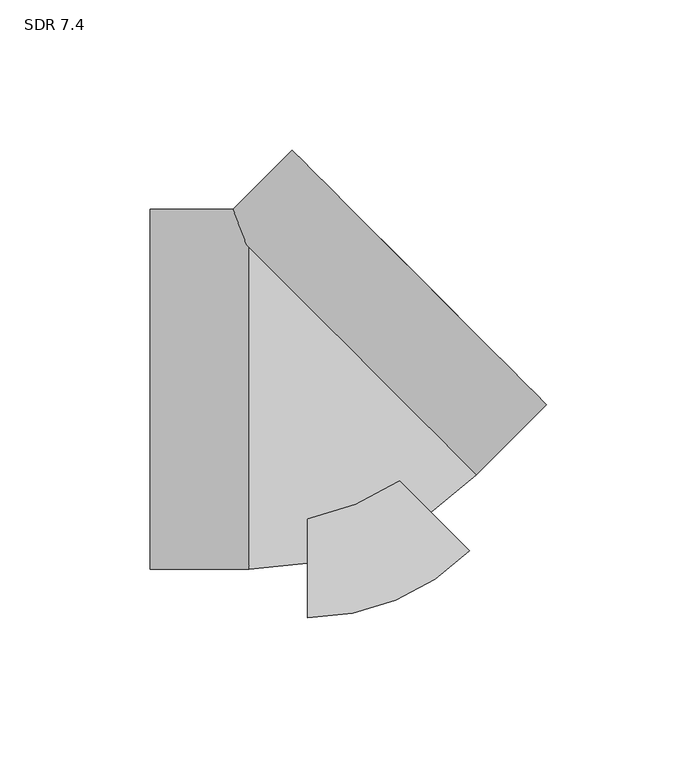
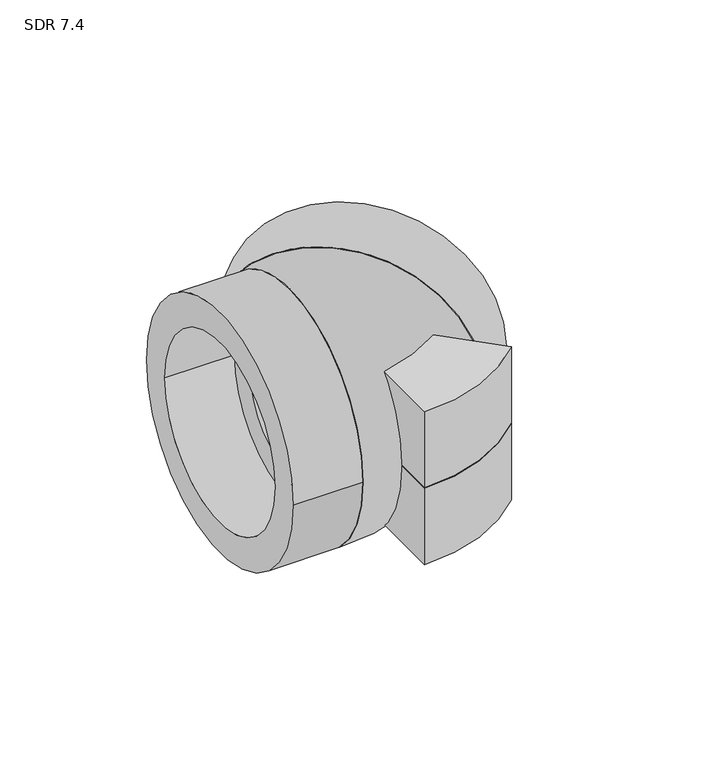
"""IFC4 building model written with IfcOpenShell, lengths in millimetres: pipe fitting geometry, Aquatherm - Elbow Socket : SDR 7.4."""

import ifcopenshell
import ifcopenshell.guid

model = None  # the IFC model being written
_history = None  # IfcOwnerHistory: only IFC2X3 demands one
_inside = {}  # id of a spatial element -> (the spatial element, [elements in it])
_under = {}  # id of a project, library or spatial element -> (it, [spatial elements below it])
_declared = {}  # id of a project -> (the project, [libraries it declares])
_typed = {}  # id of a type object -> (the type object, [elements of that type])
_made_of = {}  # id of a material, layer set ... -> (it, [elements and type objects made of it])


def new_model(schema):
    """Start an empty IFC model of exactly this schema.

    Asked for "IFC4X3", IfcOpenShell would pick the latest addendum, in which some entities
    have other attributes; the version numbers below select the first issue.
    IFC2X3 requires an IfcOwnerHistory on every rooted entity: one is made here for all.
    """
    global model, _history
    if schema == "IFC4X3":
        model = ifcopenshell.file(schema_version=(4, 3, 0, 0))
    else:
        model = ifcopenshell.file(schema=schema)
    _inside.clear()
    _under.clear()
    _declared.clear()
    _typed.clear()
    _made_of.clear()
    _history = None
    if model.schema == "IFC2X3":
        org = make("IfcOrganization", Name="unknown")
        user = make(
            "IfcPersonAndOrganization",
            ThePerson=make("IfcPerson", FamilyName="unknown"),
            TheOrganization=org,
        )
        app = make(
            "IfcApplication",
            ApplicationDeveloper=org,
            Version="unknown",
            ApplicationFullName="unknown",
            ApplicationIdentifier="unknown",
        )
        _history = make(
            "IfcOwnerHistory",
            OwningUser=user,
            OwningApplication=app,
            ChangeAction="ADDED",
            CreationDate=0,
        )
    return model


def make(cls, **values):
    """One entity of the class cls with the attributes given. An attribute that is None is left unset."""
    return model.create_entity(
        cls, **{name: value for name, value in values.items() if value is not None}
    )


def rooted(cls, **values):
    """An entity with a GlobalId (a new one), such as an element, a storey or a relation."""
    return make(cls, GlobalId=ifcopenshell.guid.new(), OwnerHistory=_history, **values)


def si_unit(unit_type, name, prefix=None):
    """IfcSIUnit, for example si_unit("LENGTHUNIT", "METRE", prefix="MILLI")."""
    return make("IfcSIUnit", UnitType=unit_type, Prefix=prefix, Name=name)


def assignment(units):
    """IfcUnitAssignment: the units of a project."""
    return None if units is None else make("IfcUnitAssignment", Units=units)


def point(xyz):
    """IfcCartesianPoint."""
    return None if xyz is None else make("IfcCartesianPoint", Coordinates=xyz)


def direction(xyz):
    """IfcDirection."""
    return None if xyz is None else make("IfcDirection", DirectionRatios=xyz)


def frame(location, z_axis=None, x_axis=None):
    """IfcAxis2Placement3D, a coordinate frame: its origin and axes. An axis left out is left unset."""
    return make(
        "IfcAxis2Placement3D",
        Location=point(location),
        Axis=direction(z_axis),
        RefDirection=direction(x_axis),
    )


def frame_2d(location, x_axis=None):
    """IfcAxis2Placement2D, a coordinate frame in the plane: its origin and x axis."""
    return make(
        "IfcAxis2Placement2D", Location=point(location), RefDirection=direction(x_axis)
    )


def origin():
    """The frame at (0, 0, 0) with its axes left unset."""
    return frame((0.0, 0.0, 0.0))


def origin_with_axes():
    """The frame at (0, 0, 0) with the z axis (0, 0, 1) and the x axis (1, 0, 0) written out."""
    return frame((0.0, 0.0, 0.0), z_axis=(0.0, 0.0, 1.0), x_axis=(1.0, 0.0, 0.0))


def origin_2d():
    """The frame at (0, 0) in the plane with its x axis left unset."""
    return frame_2d((0.0, 0.0))


def place(relative_to, where):
    """IfcLocalPlacement: puts the frame where relative to a parent placement (None: the world)."""
    return make(
        "IfcLocalPlacement", PlacementRelTo=relative_to, RelativePlacement=where
    )


def context(
    kind, dimensions, precision=None, world=None, true_north=None, identifier=None
):
    """IfcGeometricRepresentationContext, for example the 3D "Model" context."""
    return make(
        "IfcGeometricRepresentationContext",
        ContextIdentifier=identifier,
        ContextType=kind,
        CoordinateSpaceDimension=dimensions,
        Precision=precision,
        WorldCoordinateSystem=world,
        TrueNorth=true_north,
    )


def project(units=None, contexts=None):
    """IfcProject with its units and contexts."""
    return rooted(
        "IfcProject",
        Name="project",
        RepresentationContexts=contexts,
        UnitsInContext=assignment(units),
    )


def spatial(cls, under=None, at=None, **own):
    """A site, building, storey or space (cls), placed at a placement, below another one or the project."""
    s = rooted(cls, ObjectPlacement=at, **own)
    if under is not None:
        _under.setdefault(under.id(), (under, []))[1].append(s)
    return s


def polyline(points):
    """IfcPolyline through the points."""
    return make("IfcPolyline", Points=[point(p) for p in points])


def circle_curve(where, radius):
    """IfcCircle in the frame where."""
    return make("IfcCircle", Position=where, Radius=radius)


def ellipse_curve(where, semi_axis1, semi_axis2):
    """IfcEllipse in the frame where."""
    return make(
        "IfcEllipse", Position=where, SemiAxis1=semi_axis1, SemiAxis2=semi_axis2
    )


def trimmed(basis, trim1, trim2, sense, master):
    """IfcTrimmedCurve: the piece of a basis curve between two trims."""
    return make(
        "IfcTrimmedCurve",
        BasisCurve=basis,
        Trim1=trim1,
        Trim2=trim2,
        SenseAgreement=sense,
        MasterRepresentation=master,
    )


def segment(curve, same_sense, transition):
    """IfcCompositeCurveSegment."""
    return make(
        "IfcCompositeCurveSegment",
        Transition=transition,
        SameSense=same_sense,
        ParentCurve=curve,
    )


def composite_curve(segments, self_intersect=None):
    """IfcCompositeCurve: segments joined end to end."""
    return make("IfcCompositeCurve", Segments=segments, SelfIntersect=self_intersect)


def outline(outer, holes=None, kind="AREA"):
    """IfcArbitraryClosedProfileDef: a profile drawn as a closed curve; with holes, ...WithVoids."""
    if holes is None:
        return make("IfcArbitraryClosedProfileDef", ProfileType=kind, OuterCurve=outer)
    return make(
        "IfcArbitraryProfileDefWithVoids",
        ProfileType=kind,
        OuterCurve=outer,
        InnerCurves=holes,
    )


def extrude(swept, where, along, depth):
    """IfcExtrudedAreaSolid: the profile swept, set in the frame where, extruded along a direction by depth."""
    return make(
        "IfcExtrudedAreaSolid",
        SweptArea=swept,
        Position=where,
        ExtrudedDirection=direction(along),
        Depth=depth,
    )


def shape(context_of_items, identifier, shape_type, items):
    """IfcShapeRepresentation: the items that make up one representation, for example the "Body"."""
    return make(
        "IfcShapeRepresentation",
        ContextOfItems=context_of_items,
        RepresentationIdentifier=identifier,
        RepresentationType=shape_type,
        Items=items,
    )


def source(mapping_origin, context_of_items, identifier, shape_type, items):
    """IfcRepresentationMap: a shape defined once, which mapped items show again and again."""
    return make(
        "IfcRepresentationMap",
        MappingOrigin=mapping_origin,
        MappedRepresentation=shape(context_of_items, identifier, shape_type, items),
    )


def transform(
    local_origin,
    x_axis=None,
    y_axis=None,
    z_axis=None,
    scale=None,
    scale2=None,
    scale3=None,
    uniform=True,
):
    """IfcCartesianTransformationOperator3D, or its non-uniform kind. x_axis, y_axis, z_axis: its Axis1, 2, 3."""
    if uniform:
        return make(
            "IfcCartesianTransformationOperator3D",
            Axis1=direction(x_axis),
            Axis2=direction(y_axis),
            LocalOrigin=point(local_origin),
            Scale=scale,
            Axis3=direction(z_axis),
        )
    return make(
        "IfcCartesianTransformationOperator3DnonUniform",
        Axis1=direction(x_axis),
        Axis2=direction(y_axis),
        LocalOrigin=point(local_origin),
        Scale=scale,
        Axis3=direction(z_axis),
        Scale2=scale2,
        Scale3=scale3,
    )


def mapped(mapping_source, mapping_target):
    """IfcMappedItem: shows the shape of a source again, moved by a transform."""
    return make(
        "IfcMappedItem", MappingSource=mapping_source, MappingTarget=mapping_target
    )


def made_of(thing, what):
    """Note that an element or type object is made of a material, layer set ...; save() writes the relation."""
    if what is not None:
        _made_of.setdefault(what.id(), (what, []))[1].append(thing)
    return thing


def element(
    cls,
    number,
    at=None,
    inside=None,
    cuts=None,
    type_object=None,
    material=None,
    context=None,
    identifier="Body",
    shape_type=None,
    held_by="IfcProductDefinitionShape",
    body=None,
    shapes=None,
    **own,
):
    """One element of the class cls, such as IfcWall. Its Tag is "e" and its number.

    at: its placement. inside: the storey or other place that contains it. cuts: it is an
    opening in that element (IfcRelVoidsElement). A single representation is given by context,
    identifier, shape_type and body (its items); several are given by shapes. held_by: the class
    of the entity that holds the representations. save() writes the other relations.
    """
    e = rooted(cls, Tag="e%d" % number, ObjectPlacement=at, **own)
    if body is not None:
        shapes = [shape(context, identifier, shape_type, body)]
    if shapes is not None:
        e.Representation = make(held_by, Representations=shapes)
    if inside is not None:
        _inside.setdefault(inside.id(), (inside, []))[1].append(e)
    if cuts is not None:
        rooted(
            "IfcRelVoidsElement", RelatingBuildingElement=cuts, RelatedOpeningElement=e
        )
    if type_object is not None:
        _typed.setdefault(type_object.id(), (type_object, []))[1].append(e)
    return made_of(e, material)


def aggregate(whole, parts):
    """IfcRelAggregates: a whole, such as a stair, and the parts it consists of."""
    return rooted("IfcRelAggregates", RelatingObject=whole, RelatedObjects=parts)


def save(model, path):
    """Write the relations noted so far, then the file.

    IfcRelAggregates (storeys below a building ...), IfcRelContainedInSpatialStructure (elements
    in a storey), IfcRelDefinesByType, IfcRelAssociatesMaterial and IfcRelDeclares: one each for
    every whole, place, type object, material and project.
    """
    for whole, parts in _under.values():
        aggregate(whole, parts)
    for where, things in _inside.values():
        rooted(
            "IfcRelContainedInSpatialStructure",
            RelatedElements=things,
            RelatingStructure=where,
        )
    for kind, things in _typed.values():
        rooted("IfcRelDefinesByType", RelatedObjects=things, RelatingType=kind)
    for what, things in _made_of.values():
        rooted("IfcRelAssociatesMaterial", RelatedObjects=things, RelatingMaterial=what)
    for by, libraries in _declared.values():
        rooted("IfcRelDeclares", RelatingContext=by, RelatedDefinitions=libraries)
    model.write(path)


def plane_surface(at):
    """IfcPlane: the flat surface through the origin of the frame at, square to its z axis."""
    return make("IfcPlane", Position=at)


def revolved_surface(curve, axis_point, axis_direction):
    """IfcSurfaceOfRevolution: the curve turned about the line through axis_point along axis_direction."""
    return make(
        "IfcSurfaceOfRevolution",
        SweptCurve=make("IfcArbitraryOpenProfileDef", ProfileType="CURVE", Curve=curve),
        AxisPosition=make("IfcAxis1Placement", Location=point(axis_point), Axis=direction(axis_direction)),
    )


def advanced_brep(points, edges, surfaces, faces):
    """IfcAdvancedBrep: a solid bounded by faces that lie on surfaces and meet in shared edges.

    An edge is (start, end): straight between two places in points (the first is 0);
    or (start, end, curve); or (start, end, curve, False) where it runs against its curve.
    A face is (place in surfaces, loops), or (place, loops, False) where it looks against
    its surface's normal. A loop lists edges by number (the first is 1), with a minus sign
    where the edge is run from its end to its start. The first loop is the outer one.
    """
    corners = [point(p) for p in points]
    vertices = [make("IfcVertexPoint", VertexGeometry=c) for c in corners]
    made = []
    for start, end, *more in edges:
        made.append(
            make(
                "IfcEdgeCurve",
                EdgeStart=vertices[start],
                EdgeEnd=vertices[end],
                EdgeGeometry=more[0] if more else make("IfcPolyline", Points=[corners[start], corners[end]]),
                SameSense=more[1] if len(more) > 1 else True,
            )
        )
    hull = []
    for where, loops, *sense in faces:
        bounds = []
        for j, loop in enumerate(loops):
            ring = [make("IfcOrientedEdge", EdgeElement=made[abs(k) - 1], Orientation=k > 0) for k in loop]
            bounds.append(
                make(
                    "IfcFaceOuterBound" if j == 0 else "IfcFaceBound",
                    Bound=make("IfcEdgeLoop", EdgeList=ring),
                    Orientation=True,
                )
            )
        hull.append(make("IfcAdvancedFace", Bounds=bounds, FaceSurface=surfaces[where], SameSense=sense[0] if sense else True))
    return make("IfcAdvancedBrep", Outer=make("IfcClosedShell", CfsFaces=hull))


def sdr_7_4_8624b917(model_context):
    return source(origin(), model_context, "Body", "SolidModel", [
        extrude(outline(composite_curve([segment(polyline([(0.0, -76.2), (0.0, 0.0), (53.8815367, -53.8815367)]), True, "CONTINUOUS"), segment(trimmed(circle_curve(origin_2d(), 76.2), [point((53.8815367, -53.8815367))], [point((0.0, -76.2))], False, "CARTESIAN"), True, "CONTINUOUS")], self_intersect=False)), frame((0.0, 0.0, -38.1), z_axis=(0.0, 0.0, 1.0), x_axis=(1.0, 0.0, 0.0)), (0.0, 0.0, 1.0), 38.1),
        extrude(outline(composite_curve([segment(trimmed(circle_curve(origin_2d(), 76.2), [point((53.8815367, -53.8815367))], [point((0.0, -76.2))], False, "CARTESIAN"), True, "CONTINUOUS"), segment(polyline([(0.0, -76.2), (0.0, 0.0), (53.8815367, -53.8815367)]), True, "CONTINUOUS")], self_intersect=False)), origin_with_axes(), (0.0, 0.0, 1.0), 38.1),
        extrude(outline(composite_curve([segment(trimmed(circle_curve(origin_2d(), 59.944), [point((0.0, 59.944))], [point((0.0, -59.944))], False, "CARTESIAN"), True, "CONTINUOUS"), segment(trimmed(circle_curve(origin_2d(), 59.944), [point((0.0, -59.944))], [point((0.0, 59.944))], False, "CARTESIAN"), True, "CONTINUOUS")], self_intersect=False), holes=[composite_curve([segment(trimmed(circle_curve(origin_2d(), 44.958), [point((0.0, 44.958))], [point((0.0, -44.958))], True, "CARTESIAN"), True, "CONTINUOUS"), segment(trimmed(circle_curve(origin_2d(), 44.958), [point((0.0, -44.958))], [point((0.0, 44.958))], True, "CARTESIAN"), True, "CONTINUOUS")], self_intersect=False)]), frame((13.8295944, 13.8295944, 0.0), z_axis=(0.7071067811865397, 0.7071067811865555, 0.0), x_axis=(0.0, 0.0, 1.0)), (0.0, 0.0, 1.0), 33.02),
        advanced_brep(
        [(-19.558, 47.2171889, -36.9299365), (-19.558, 47.2171889, 36.9299365), (-19.558, -32.4696667, 0.0), (-19.558, 32.4696667, 0.0), (36.7891159, -9.1299271, 0.0), (-9.1299271, 36.7891159, 0.0)],
        [
            (0, 1, circle_curve(frame((-19.558, 0.0, 0.0), z_axis=(-1.0, 0.0, 0.0), x_axis=(0.0, 1.0, 0.0)), 59.944)),
            (1, 0),
            (2, 3, circle_curve(frame((-19.558, 0.0, 0.0), z_axis=(1.0, 0.0, 0.0), x_axis=(0.0, 1.0, 0.0)), 32.4696667)),
            (3, 2, circle_curve(frame((-19.558, 0.0, 0.0), z_axis=(1.0, 0.0, 0.0), x_axis=(0.0, 1.0, 0.0)), 32.4696667)),
            (1, 0, circle_curve(frame((13.8295944, 13.8295944, 0.0), z_axis=(0.7071067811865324, 0.7071067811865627, 0.0), x_axis=(-0.7071067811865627, 0.7071067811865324, 0.0)), 59.944)),
            (4, 5, circle_curve(frame((13.8295944, 13.8295944, 0.0), z_axis=(-0.7071067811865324, -0.7071067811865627, 0.0), x_axis=(-0.7071067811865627, 0.7071067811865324, 0.0)), 32.4696667)),
            (5, 4, circle_curve(frame((13.8295944, 13.8295944, 0.0), z_axis=(-0.7071067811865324, -0.7071067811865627, 0.0), x_axis=(-0.7071067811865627, 0.7071067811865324, 0.0)), 32.4696667)),
            (5, 3, circle_curve(frame((-19.558, 47.2171889, 0.0), z_axis=(0.0, 0.0, -1.0), x_axis=(0.0, -1.0, 0.0)), 14.7475222)),
            (2, 4, circle_curve(frame((-19.558, 47.2171889, 0.0), z_axis=(0.0, 0.0, 1.0), x_axis=(0.0, -1.0, 0.0)), 79.6868555)),
        ],
        [
            plane_surface(frame((-19.558, 47.2171889, 94.0799365), z_axis=(-1.0, 0.0, 0.0), x_axis=(0.0, -1.0, 0.0))),
            plane_surface(frame((-19.558, 47.2171889, 94.0799365), z_axis=(0.7071067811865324, 0.7071067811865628, 0.0), x_axis=(0.7071067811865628, -0.7071067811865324, 0.0))),
            revolved_surface(trimmed(ellipse_curve(frame((-19.558, 0.0, 0.0), z_axis=(1.0, 0.0, 0.0), x_axis=(0.0, 1.0, 0.0)), 59.944, 59.944), [point((-19.558, 47.2171889, 36.9299365))], [point((-19.558, 47.2171889, -36.9299365))], True, "CARTESIAN"), (-19.558, 47.2171889, 94.0799365), (0.0, 0.0, -1.0)),
            revolved_surface(trimmed(ellipse_curve(frame((-19.558, 0.0, 0.0), z_axis=(-1.0, 0.0, 0.0), x_axis=(0.0, 1.0, 0.0)), 32.4696667, 32.4696667), [point((-19.558, 32.4696667, 0.0))], [point((-19.558, -32.4696667, 0.0))], True, "CARTESIAN"), (-19.558, 47.2171889, 94.0799365), (0.0, 0.0, -1.0)),
            revolved_surface(trimmed(ellipse_curve(frame((-19.558, 0.0, 0.0), z_axis=(-1.0, 0.0, 0.0), x_axis=(0.0, 1.0, 0.0)), 32.4696667, 32.4696667), [point((-19.558, -32.4696667, 0.0))], [point((-19.558, 32.4696667, 0.0))], True, "CARTESIAN"), (-19.558, 47.2171889, 94.0799365), (0.0, 0.0, -1.0)),
        ],
        [
            (0, [[1, 2], [3, 4]]),
            (1, [[5, -2], [6, 7]]),
            (2, [[-1, -5]]),
            (3, [[8, -3, 9, -7]]),
            (4, [[-9, -4, -8, -6]]),
        ],
    ),
        extrude(outline(composite_curve([segment(trimmed(circle_curve(origin_2d(), 59.944), [point((59.944, 0.0))], [point((-59.944, 0.0))], False, "CARTESIAN"), True, "CONTINUOUS"), segment(trimmed(circle_curve(origin_2d(), 59.944), [point((-59.944, 0.0))], [point((59.944, 0.0))], False, "CARTESIAN"), True, "CONTINUOUS")], self_intersect=False), holes=[composite_curve([segment(trimmed(circle_curve(origin_2d(), 44.958), [point((44.958, 0.0))], [point((-44.958, 0.0))], True, "CARTESIAN"), True, "CONTINUOUS"), segment(trimmed(circle_curve(origin_2d(), 44.958), [point((-44.958, 0.0))], [point((44.958, 0.0))], True, "CARTESIAN"), True, "CONTINUOUS")], self_intersect=False)]), frame((-52.578, 0.0, 0.0), z_axis=(1.0, 0.0, 0.0), x_axis=(0.0, 1.0, 0.0)), (0.0, 0.0, 1.0), 33.02),
    ])


if __name__ == "__main__":
    model = new_model("IFC4")
    model_context = context("Model", 3, world=origin())
    ifc_project = project(units=[si_unit("LENGTHUNIT", "METRE", prefix="MILLI")], contexts=[model_context])
    site = spatial("IfcSite", under=ifc_project)
    building = spatial("IfcBuilding", under=site)
    placement = place(None, origin())
    sdr_7_4_shape = sdr_7_4_8624b917(model_context)
    element("IfcPipeFitting", 1, ObjectType="Aquatherm - Elbow Socket : SDR 7.4", at=placement, inside=building, context=model_context, shape_type="MappedRepresentation", body=[
        mapped(sdr_7_4_shape, transform((0.0, 0.0, 0.0), x_axis=(1.0, 0.0, 0.0), y_axis=(0.0, 1.0, 0.0), z_axis=(0.0, 0.0, 1.0))),
    ])
    save(model, "model.ifc")
